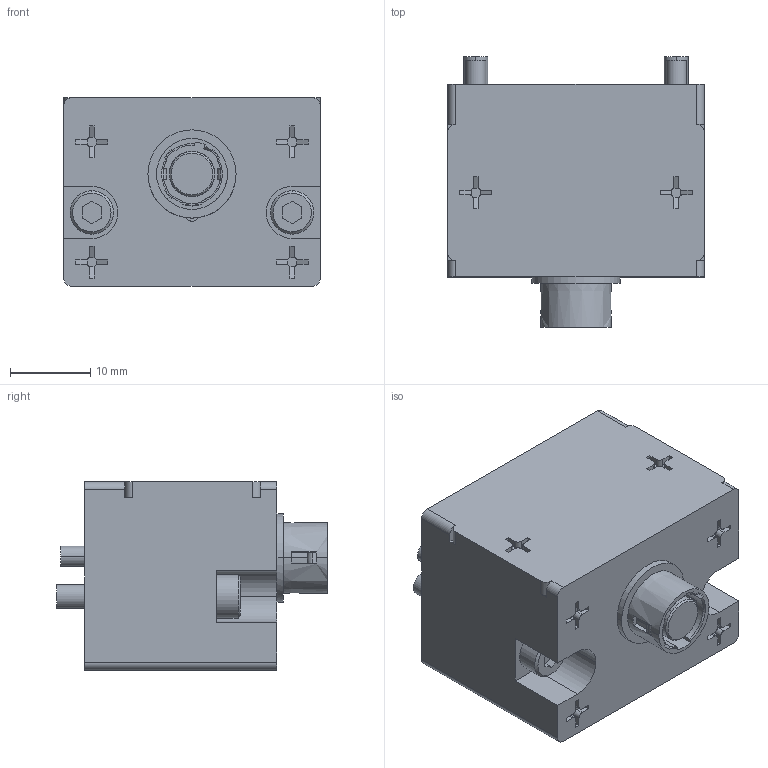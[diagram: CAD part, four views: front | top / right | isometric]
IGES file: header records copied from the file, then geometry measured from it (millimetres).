
Start section: 3D InterOp IGES (v. 2022 1.0.0), Spatial Corp. Copyright (c) 1999-2020.
Global section: file name: KHF-12RS-D14C_ver1.igs; native system: Spatial Corp.; preprocessor: 3D InterOp GENERIC/IGES 3.0; author: Noname; organization: Noname; date: 20260424.115259; units: millimetre
Bounding box: 32 x 33.8 x 23.5 mm (x, y, z)
Surface area: 6275.2 mm2 (no closed solid volume)
Topology: 0 solids, 0 shells, 526 faces, 2666 edges, 2665 vertices
Faces by surface type: extrusion 322, revolution 204
